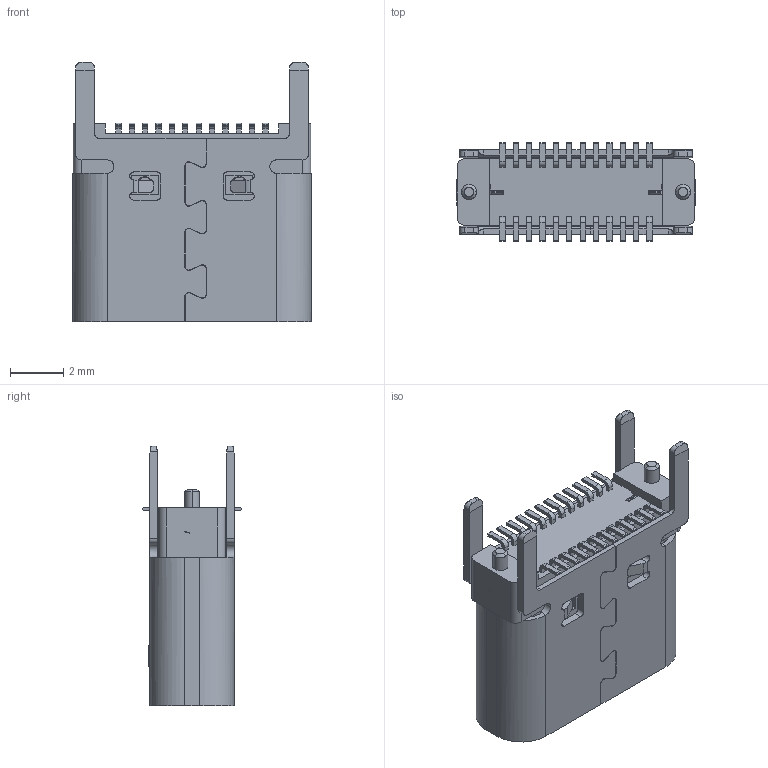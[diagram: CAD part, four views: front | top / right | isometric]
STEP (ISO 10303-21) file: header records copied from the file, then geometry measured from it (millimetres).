
FILE_DESCRIPTION (( 'STEP AP203' ), '1' );
FILE_NAME ('U5436-24PN7.4L.STEP', '2026-09-22T06:37:48', ( '' ), ( '' ), 'SwSTEP 2.0', 'SolidWorks 2024', '' );
FILE_SCHEMA (( 'CONFIG_CONTROL_DESIGN' ));
Length unit declared in the file: millimetre
Products named in the file (1): U5436-24PN7.4L
Bounding box: 8.94 x 3.7 x 9.7 mm (x, y, z)
Volume: 127.5 mm3; surface area: 559.2 mm2
Topology: 2 solids, 2 shells, 957 faces, 2654 edges, 1739 vertices
Faces by surface type: plane 643, cylinder 243, bspline 37, cone 34
Entity records: 35268 total; most frequent: CARTESIAN_POINT 15837, ORIENTED_EDGE 5308, EDGE_CURVE 2654, B_SPLINE_CURVE_WITH_KNOTS 2521, DIRECTION 1975, VERTEX_POINT 1739, EDGE_LOOP 1025, FACE_OUTER_BOUND 957
